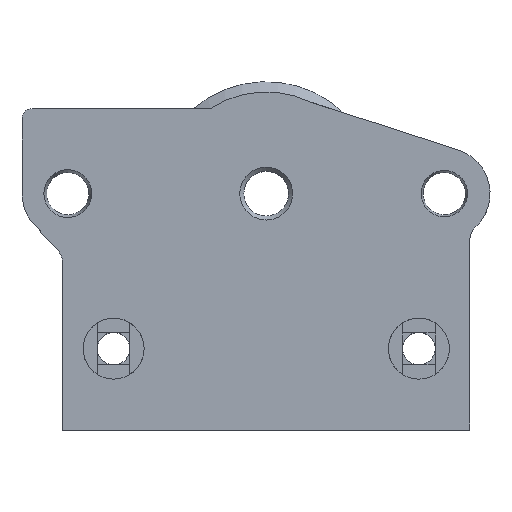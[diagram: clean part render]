
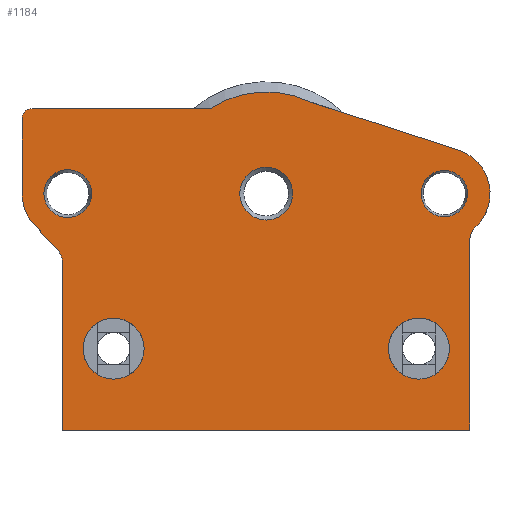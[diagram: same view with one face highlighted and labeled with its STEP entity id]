
A CAD part, top view. The second image highlights one B-rep face of the part: STEP entity #1184.
In plain terms, the highlighted planar face has unit normal (0, 0, 1).
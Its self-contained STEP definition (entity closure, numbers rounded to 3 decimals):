
#35=FACE_BOUND('',#175,.T.);
#36=FACE_BOUND('',#176,.T.);
#37=FACE_BOUND('',#177,.T.);
#38=FACE_BOUND('',#178,.T.);
#39=FACE_BOUND('',#179,.T.);
#47=PLANE('',#1262);
#103=FACE_OUTER_BOUND('',#174,.T.);
#174=EDGE_LOOP('',(#823,#824,#825,#826,#827,#828,#829,#830,#831,#832,#833,
#834,#835));
#175=EDGE_LOOP('',(#836));
#176=EDGE_LOOP('',(#837));
#177=EDGE_LOOP('',(#838));
#178=EDGE_LOOP('',(#839));
#179=EDGE_LOOP('',(#840));
#257=LINE('',#1772,#366);
#258=LINE('',#1774,#367);
#259=LINE('',#1776,#368);
#260=LINE('',#1782,#369);
#261=LINE('',#1786,#370);
#262=LINE('',#1790,#371);
#263=LINE('',#1794,#372);
#366=VECTOR('',#1405,10.);
#367=VECTOR('',#1406,10.);
#368=VECTOR('',#1407,10.);
#369=VECTOR('',#1412,10.);
#370=VECTOR('',#1415,10.);
#371=VECTOR('',#1418,10.);
#372=VECTOR('',#1421,10.);
#473=CIRCLE('',#1258,2.6);
#476=CIRCLE('',#1263,2.);
#477=CIRCLE('',#1264,4.5);
#478=CIRCLE('',#1265,10.);
#479=CIRCLE('',#1266,1.);
#480=CIRCLE('',#1267,4.5);
#481=CIRCLE('',#1268,2.);
#482=CIRCLE('',#1269,3.);
#483=CIRCLE('',#1270,3.);
#484=CIRCLE('',#1271,2.35);
#485=CIRCLE('',#1272,2.283);
#530=VERTEX_POINT('',#1760);
#533=VERTEX_POINT('',#1770);
#534=VERTEX_POINT('',#1771);
#535=VERTEX_POINT('',#1773);
#536=VERTEX_POINT('',#1775);
#537=VERTEX_POINT('',#1777);
#538=VERTEX_POINT('',#1779);
#539=VERTEX_POINT('',#1781);
#540=VERTEX_POINT('',#1783);
#541=VERTEX_POINT('',#1785);
#542=VERTEX_POINT('',#1787);
#543=VERTEX_POINT('',#1789);
#544=VERTEX_POINT('',#1791);
#545=VERTEX_POINT('',#1793);
#546=VERTEX_POINT('',#1796);
#547=VERTEX_POINT('',#1798);
#548=VERTEX_POINT('',#1800);
#549=VERTEX_POINT('',#1802);
#639=EDGE_CURVE('',#530,#530,#473,.T.);
#644=EDGE_CURVE('',#533,#534,#257,.T.);
#645=EDGE_CURVE('',#534,#535,#258,.T.);
#646=EDGE_CURVE('',#535,#536,#259,.T.);
#647=EDGE_CURVE('',#537,#536,#476,.T.);
#648=EDGE_CURVE('',#537,#538,#477,.T.);
#649=EDGE_CURVE('',#538,#539,#260,.T.);
#650=EDGE_CURVE('',#540,#539,#478,.T.);
#651=EDGE_CURVE('',#540,#541,#261,.T.);
#652=EDGE_CURVE('',#541,#542,#479,.T.);
#653=EDGE_CURVE('',#542,#543,#262,.T.);
#654=EDGE_CURVE('',#543,#544,#480,.T.);
#655=EDGE_CURVE('',#544,#545,#263,.T.);
#656=EDGE_CURVE('',#533,#545,#481,.T.);
#657=EDGE_CURVE('',#546,#546,#482,.T.);
#658=EDGE_CURVE('',#547,#547,#483,.T.);
#659=EDGE_CURVE('',#548,#548,#484,.T.);
#660=EDGE_CURVE('',#549,#549,#485,.T.);
#823=ORIENTED_EDGE('',*,*,#644,.T.);
#824=ORIENTED_EDGE('',*,*,#645,.T.);
#825=ORIENTED_EDGE('',*,*,#646,.T.);
#826=ORIENTED_EDGE('',*,*,#647,.F.);
#827=ORIENTED_EDGE('',*,*,#648,.T.);
#828=ORIENTED_EDGE('',*,*,#649,.T.);
#829=ORIENTED_EDGE('',*,*,#650,.F.);
#830=ORIENTED_EDGE('',*,*,#651,.T.);
#831=ORIENTED_EDGE('',*,*,#652,.T.);
#832=ORIENTED_EDGE('',*,*,#653,.T.);
#833=ORIENTED_EDGE('',*,*,#654,.T.);
#834=ORIENTED_EDGE('',*,*,#655,.T.);
#835=ORIENTED_EDGE('',*,*,#656,.F.);
#836=ORIENTED_EDGE('',*,*,#657,.T.);
#837=ORIENTED_EDGE('',*,*,#658,.T.);
#838=ORIENTED_EDGE('',*,*,#659,.T.);
#839=ORIENTED_EDGE('',*,*,#660,.T.);
#840=ORIENTED_EDGE('',*,*,#639,.F.);
#1184=ADVANCED_FACE('',(#103,#35,#36,#37,#38,#39),#47,.T.);
#1258=AXIS2_PLACEMENT_3D('',#1761,#1393,#1394);
#1262=AXIS2_PLACEMENT_3D('',#1769,#1403,#1404);
#1263=AXIS2_PLACEMENT_3D('',#1778,#1408,#1409);
#1264=AXIS2_PLACEMENT_3D('',#1780,#1410,#1411);
#1265=AXIS2_PLACEMENT_3D('',#1784,#1413,#1414);
#1266=AXIS2_PLACEMENT_3D('',#1788,#1416,#1417);
#1267=AXIS2_PLACEMENT_3D('',#1792,#1419,#1420);
#1268=AXIS2_PLACEMENT_3D('',#1795,#1422,#1423);
#1269=AXIS2_PLACEMENT_3D('',#1797,#1424,#1425);
#1270=AXIS2_PLACEMENT_3D('',#1799,#1426,#1427);
#1271=AXIS2_PLACEMENT_3D('',#1801,#1428,#1429);
#1272=AXIS2_PLACEMENT_3D('',#1803,#1430,#1431);
#1393=DIRECTION('center_axis',(0.,0.,1.));
#1394=DIRECTION('ref_axis',(-1.,0.,0.));
#1403=DIRECTION('center_axis',(0.,0.,1.));
#1404=DIRECTION('ref_axis',(-1.,0.,0.));
#1405=DIRECTION('',(0.,-1.,0.));
#1406=DIRECTION('',(1.,0.,0.));
#1407=DIRECTION('',(0.,1.,0.));
#1408=DIRECTION('center_axis',(0.,0.,1.));
#1409=DIRECTION('ref_axis',(1.,0.,0.));
#1410=DIRECTION('center_axis',(0.,0.,1.));
#1411=DIRECTION('ref_axis',(0.66,-0.751,0.));
#1412=DIRECTION('',(-0.951,0.309,0.));
#1413=DIRECTION('center_axis',(0.,0.,-1.));
#1414=DIRECTION('ref_axis',(1.,0.,0.));
#1415=DIRECTION('',(-1.,0.,0.));
#1416=DIRECTION('center_axis',(0.,0.,1.));
#1417=DIRECTION('ref_axis',(0.,1.,0.));
#1418=DIRECTION('',(0.,-1.,0.));
#1419=DIRECTION('center_axis',(0.,0.,1.));
#1420=DIRECTION('ref_axis',(-1.,0.,0.));
#1421=DIRECTION('',(0.681,-0.732,0.));
#1422=DIRECTION('center_axis',(0.,0.,1.));
#1423=DIRECTION('ref_axis',(0.931,0.366,0.));
#1424=DIRECTION('center_axis',(0.,0.,-1.));
#1425=DIRECTION('ref_axis',(1.,0.,0.));
#1426=DIRECTION('center_axis',(0.,0.,-1.));
#1427=DIRECTION('ref_axis',(1.,0.,0.));
#1428=DIRECTION('center_axis',(0.,0.,-1.));
#1429=DIRECTION('ref_axis',(1.,0.,0.));
#1430=DIRECTION('center_axis',(0.,0.,-1.));
#1431=DIRECTION('ref_axis',(1.,0.,0.));
#1760=CARTESIAN_POINT('',(-17.4,-19.3,48.875));
#1761=CARTESIAN_POINT('Origin',(-20.,-19.3,48.875));
#1769=CARTESIAN_POINT('Origin',(-21.001,-25.417,48.875));
#1770=CARTESIAN_POINT('',(-40.,-26.154,48.875));
#1771=CARTESIAN_POINT('',(-40.,-42.533,48.875));
#1772=CARTESIAN_POINT('',(-40.,-28.5,48.875));
#1773=CARTESIAN_POINT('',(0.,-42.533,48.875));
#1774=CARTESIAN_POINT('',(-40.,-42.533,48.875));
#1775=CARTESIAN_POINT('',(0.,-23.987,48.875));
#1776=CARTESIAN_POINT('',(0.,-42.533,48.875));
#1777=CARTESIAN_POINT('',(0.615,-22.544,48.875));
#1778=CARTESIAN_POINT('Origin',(2.,-23.987,48.875));
#1779=CARTESIAN_POINT('',(-1.112,-15.016,48.875));
#1780=CARTESIAN_POINT('Origin',(-2.501,-19.297,48.875));
#1781=CARTESIAN_POINT('',(-15.619,-10.311,48.875));
#1782=CARTESIAN_POINT('',(-13.667,-10.944,48.875));
#1783=CARTESIAN_POINT('',(-25.493,-10.944,48.875));
#1784=CARTESIAN_POINT('Origin',(-20.,-19.3,48.875));
#1785=CARTESIAN_POINT('',(-43.001,-10.944,48.875));
#1786=CARTESIAN_POINT('',(-43.001,-10.944,48.875));
#1787=CARTESIAN_POINT('',(-44.001,-11.944,48.875));
#1788=CARTESIAN_POINT('Origin',(-43.001,-11.944,48.875));
#1789=CARTESIAN_POINT('',(-44.001,-19.297,48.875));
#1790=CARTESIAN_POINT('',(-44.001,-19.297,48.875));
#1791=CARTESIAN_POINT('',(-42.796,-22.362,48.875));
#1792=CARTESIAN_POINT('Origin',(-39.501,-19.297,48.875));
#1793=CARTESIAN_POINT('',(-40.536,-24.791,48.875));
#1794=CARTESIAN_POINT('',(-34.179,-31.625,48.875));
#1795=CARTESIAN_POINT('Origin',(-42.,-26.154,48.875));
#1796=CARTESIAN_POINT('',(-38.,-34.533,48.875));
#1797=CARTESIAN_POINT('Origin',(-35.,-34.533,48.875));
#1798=CARTESIAN_POINT('',(-8.,-34.533,48.875));
#1799=CARTESIAN_POINT('Origin',(-5.,-34.533,48.875));
#1800=CARTESIAN_POINT('',(-41.851,-19.297,48.875));
#1801=CARTESIAN_POINT('Origin',(-39.501,-19.297,48.875));
#1802=CARTESIAN_POINT('',(-4.783,-19.297,48.875));
#1803=CARTESIAN_POINT('Origin',(-2.501,-19.297,48.875));
